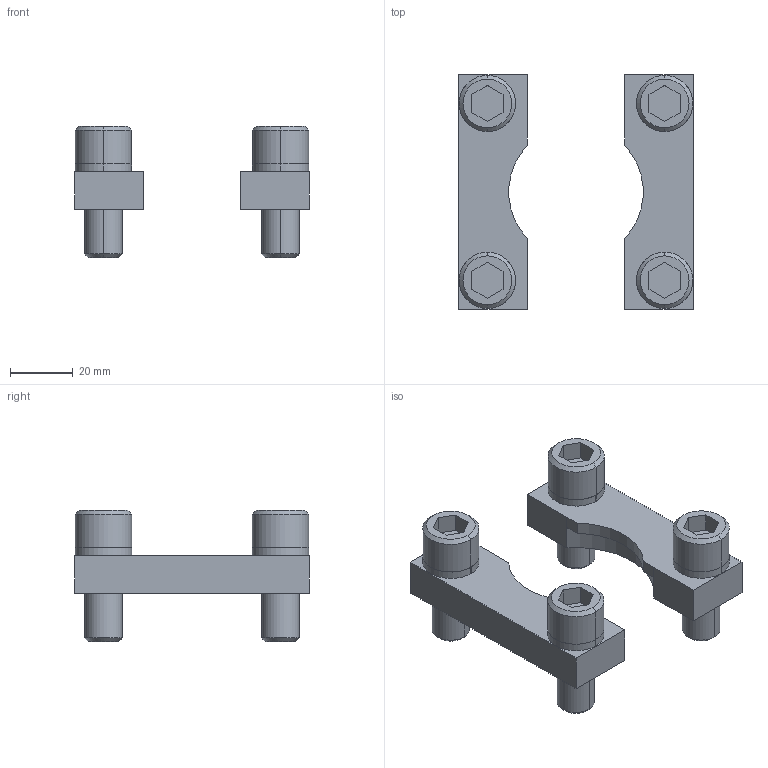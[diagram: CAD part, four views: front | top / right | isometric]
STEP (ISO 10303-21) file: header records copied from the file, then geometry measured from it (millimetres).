
FILE_DESCRIPTION(/* description */ (''),/* implementation_level */ '2;1');
FILE_NAME(/* name */ '3d_sf50_05186_r00.stp',/* time_stamp */ '2011-01-10T14:11:14+09:00',/* author */ ('MISUMI'),/* organization */ (''),/* preprocessor_version */ 'ST-DEVELOPER v11',/* originating_system */ 'UGS - NX 5.0',/* authorisation */ '');
FILE_SCHEMA (('CONFIG_CONTROL_DESIGN'));
Length unit declared in the file: millimetre
Products named in the file (1): 3d_sf50_05186_r00
Bounding box: 75 x 75 x 42 mm (x, y, z)
Volume: 51888.9 mm3; surface area: 23682.4 mm2
Topology: 10 solids, 10 shells, 136 faces, 304 edges, 196 vertices
Faces by surface type: plane 76, cylinder 44, cone 16
Entity records: 3856 total; most frequent: DIRECTION 682, CARTESIAN_POINT 637, ORIENTED_EDGE 608, EDGE_CURVE 304, AXIS2_PLACEMENT_3D 241, LINE 200, VECTOR 200, VERTEX_POINT 196
